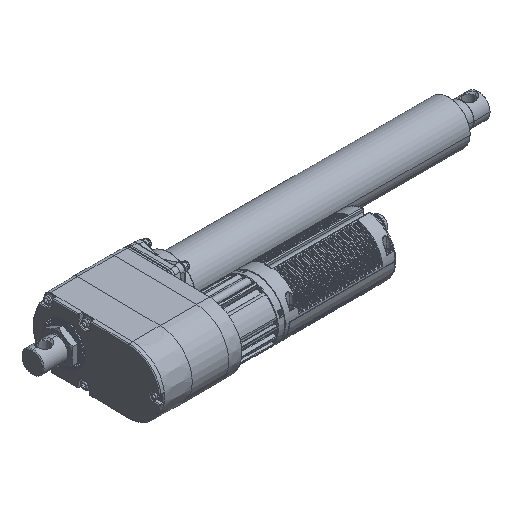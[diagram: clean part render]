
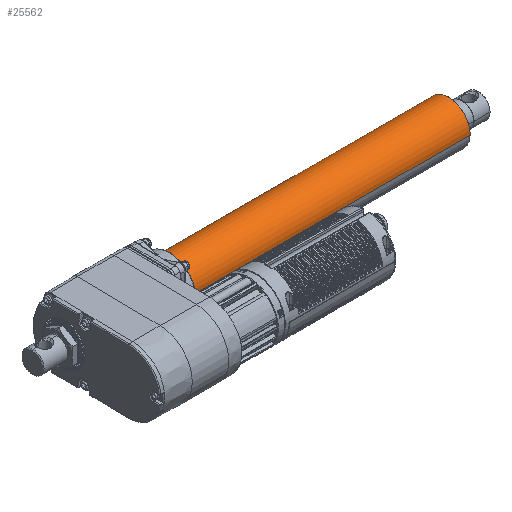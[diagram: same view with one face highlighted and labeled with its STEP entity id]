
A CAD part, isometric view. The second image highlights one B-rep face of the part: STEP entity #25562.
In plain terms, the highlighted cylindrical face has radius 25.4 mm (diameter 50.8 mm), a partial arc.
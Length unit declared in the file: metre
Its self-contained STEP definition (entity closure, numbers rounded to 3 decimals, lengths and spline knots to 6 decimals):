
#9325 = DIRECTION ( 'NONE',  ( 0., -1., -0.017 ) ) ;
#9887 = ORIENTED_EDGE ( 'NONE', *, *, #80333, .T. ) ;
#16453 = DIRECTION ( 'NONE',  ( 1., 0., 0. ) ) ;
#25045 = FACE_OUTER_BOUND ( 'NONE', #114731, .T. ) ;
#25562 = ADVANCED_FACE ( 'NONE', ( #25045 ), #113371, .T. ) ;
#26022 = DIRECTION ( 'NONE',  ( -1., 0., 0. ) ) ;
#26028 = CARTESIAN_POINT ( 'NONE',  ( -0.166884, 0.0254, 0.0254 ) ) ;
#28464 = VERTEX_POINT ( 'NONE', #145997 ) ;
#31606 = EDGE_CURVE ( 'NONE', #131235, #56724, #129603, .T. ) ;
#39771 = DIRECTION ( 'NONE',  ( -1., 0., 0. ) ) ;
#42703 = DIRECTION ( 'NONE',  ( 0., 1., 0.017 ) ) ;
#54562 = CARTESIAN_POINT ( 'NONE',  ( 0.310116, 0.050796, 0.025824 ) ) ;
#56724 = VERTEX_POINT ( 'NONE', #118592 ) ;
#63883 = AXIS2_PLACEMENT_3D ( 'NONE', #128105, #26022, #9325 ) ;
#66564 = VERTEX_POINT ( 'NONE', #54562 ) ;
#74748 = DIRECTION ( 'NONE',  ( 1., 0., 0. ) ) ;
#77248 = DIRECTION ( 'NONE',  ( 1., 0., 0. ) ) ;
#80333 = EDGE_CURVE ( 'NONE', #131235, #28464, #92362, .T. ) ;
#90792 = EDGE_CURVE ( 'NONE', #66564, #28464, #95366, .T. ) ;
#90795 = ORIENTED_EDGE ( 'NONE', *, *, #112048, .F. ) ;
#92362 = LINE ( 'NONE', #119909, #131314 ) ;
#94054 = VECTOR ( 'NONE', #16453, 1. ) ;
#95366 = CIRCLE ( 'NONE', #192647, 0.0254 ) ;
#96179 = AXIS2_PLACEMENT_3D ( 'NONE', #26028, #39771, #42703 ) ;
#101808 = ORIENTED_EDGE ( 'NONE', *, *, #31606, .F. ) ;
#106644 = CARTESIAN_POINT ( 'NONE',  ( 0.310116, 0.0254, 0.0254 ) ) ;
#112048 = EDGE_CURVE ( 'NONE', #56724, #66564, #151866, .T. ) ;
#113371 = CYLINDRICAL_SURFACE ( 'NONE', #96179, 0.0254 ) ;
#114731 = EDGE_LOOP ( 'NONE', ( #162303, #90795, #101808, #9887 ) ) ;
#118592 = CARTESIAN_POINT ( 'NONE',  ( -0.018484, 0.050796, 0.025824 ) ) ;
#119909 = CARTESIAN_POINT ( 'NONE',  ( -0.018484, 0.000004, 0.024976 ) ) ;
#128105 = CARTESIAN_POINT ( 'NONE',  ( -0.018484, 0.0254, 0.0254 ) ) ;
#129603 = CIRCLE ( 'NONE', #63883, 0.0254 ) ;
#131235 = VERTEX_POINT ( 'NONE', #181814 ) ;
#131314 = VECTOR ( 'NONE', #74748, 1. ) ;
#137144 = DIRECTION ( 'NONE',  ( 0., 1., 0.017 ) ) ;
#145997 = CARTESIAN_POINT ( 'NONE',  ( 0.310116, 0.000004, 0.024976 ) ) ;
#151866 = LINE ( 'NONE', #165579, #94054 ) ;
#162303 = ORIENTED_EDGE ( 'NONE', *, *, #90792, .F. ) ;
#165579 = CARTESIAN_POINT ( 'NONE',  ( -0.018484, 0.050796, 0.025824 ) ) ;
#181814 = CARTESIAN_POINT ( 'NONE',  ( -0.018484, 0.000004, 0.024976 ) ) ;
#192647 = AXIS2_PLACEMENT_3D ( 'NONE', #106644, #77248, #137144 ) ;
